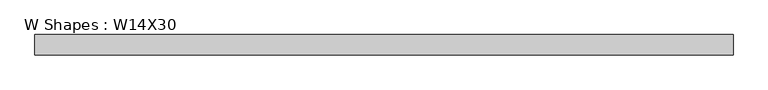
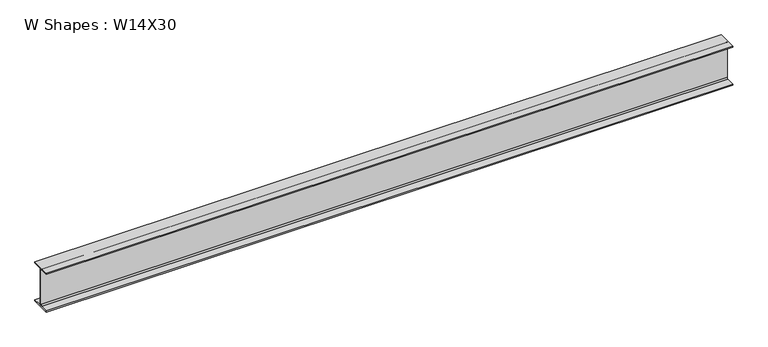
"""IFC4 building model written with IfcOpenShell, lengths in millimetres: beam geometry, W Shapes : W14X30."""

import ifcopenshell
import ifcopenshell.guid

model = None  # the IFC model being written
_history = None  # IfcOwnerHistory: only IFC2X3 demands one
_inside = {}  # id of a spatial element -> (the spatial element, [elements in it])
_under = {}  # id of a project, library or spatial element -> (it, [spatial elements below it])
_declared = {}  # id of a project -> (the project, [libraries it declares])
_typed = {}  # id of a type object -> (the type object, [elements of that type])
_made_of = {}  # id of a material, layer set ... -> (it, [elements and type objects made of it])


def new_model(schema):
    """Start an empty IFC model of exactly this schema.

    Asked for "IFC4X3", IfcOpenShell would pick the latest addendum, in which some entities
    have other attributes; the version numbers below select the first issue.
    IFC2X3 requires an IfcOwnerHistory on every rooted entity: one is made here for all.
    """
    global model, _history
    if schema == "IFC4X3":
        model = ifcopenshell.file(schema_version=(4, 3, 0, 0))
    else:
        model = ifcopenshell.file(schema=schema)
    _inside.clear()
    _under.clear()
    _declared.clear()
    _typed.clear()
    _made_of.clear()
    _history = None
    if model.schema == "IFC2X3":
        org = make("IfcOrganization", Name="unknown")
        user = make(
            "IfcPersonAndOrganization",
            ThePerson=make("IfcPerson", FamilyName="unknown"),
            TheOrganization=org,
        )
        app = make(
            "IfcApplication",
            ApplicationDeveloper=org,
            Version="unknown",
            ApplicationFullName="unknown",
            ApplicationIdentifier="unknown",
        )
        _history = make(
            "IfcOwnerHistory",
            OwningUser=user,
            OwningApplication=app,
            ChangeAction="ADDED",
            CreationDate=0,
        )
    return model


def make(cls, **values):
    """One entity of the class cls with the attributes given. An attribute that is None is left unset."""
    return model.create_entity(
        cls, **{name: value for name, value in values.items() if value is not None}
    )


def rooted(cls, **values):
    """An entity with a GlobalId (a new one), such as an element, a storey or a relation."""
    return make(cls, GlobalId=ifcopenshell.guid.new(), OwnerHistory=_history, **values)


def si_unit(unit_type, name, prefix=None):
    """IfcSIUnit, for example si_unit("LENGTHUNIT", "METRE", prefix="MILLI")."""
    return make("IfcSIUnit", UnitType=unit_type, Prefix=prefix, Name=name)


def assignment(units):
    """IfcUnitAssignment: the units of a project."""
    return None if units is None else make("IfcUnitAssignment", Units=units)


def point(xyz):
    """IfcCartesianPoint."""
    return None if xyz is None else make("IfcCartesianPoint", Coordinates=xyz)


def direction(xyz):
    """IfcDirection."""
    return None if xyz is None else make("IfcDirection", DirectionRatios=xyz)


def frame(location, z_axis=None, x_axis=None):
    """IfcAxis2Placement3D, a coordinate frame: its origin and axes. An axis left out is left unset."""
    return make(
        "IfcAxis2Placement3D",
        Location=point(location),
        Axis=direction(z_axis),
        RefDirection=direction(x_axis),
    )


def frame_2d(location, x_axis=None):
    """IfcAxis2Placement2D, a coordinate frame in the plane: its origin and x axis."""
    return make(
        "IfcAxis2Placement2D", Location=point(location), RefDirection=direction(x_axis)
    )


def origin():
    """The frame at (0, 0, 0) with its axes left unset."""
    return frame((0.0, 0.0, 0.0))


def place(relative_to, where):
    """IfcLocalPlacement: puts the frame where relative to a parent placement (None: the world)."""
    return make(
        "IfcLocalPlacement", PlacementRelTo=relative_to, RelativePlacement=where
    )


def context(
    kind, dimensions, precision=None, world=None, true_north=None, identifier=None
):
    """IfcGeometricRepresentationContext, for example the 3D "Model" context."""
    return make(
        "IfcGeometricRepresentationContext",
        ContextIdentifier=identifier,
        ContextType=kind,
        CoordinateSpaceDimension=dimensions,
        Precision=precision,
        WorldCoordinateSystem=world,
        TrueNorth=true_north,
    )


def project(units=None, contexts=None):
    """IfcProject with its units and contexts."""
    return rooted(
        "IfcProject",
        Name="project",
        RepresentationContexts=contexts,
        UnitsInContext=assignment(units),
    )


def spatial(cls, under=None, at=None, **own):
    """A site, building, storey or space (cls), placed at a placement, below another one or the project."""
    s = rooted(cls, ObjectPlacement=at, **own)
    if under is not None:
        _under.setdefault(under.id(), (under, []))[1].append(s)
    return s


def polyline(points):
    """IfcPolyline through the points."""
    return make("IfcPolyline", Points=[point(p) for p in points])


def circle_curve(where, radius):
    """IfcCircle in the frame where."""
    return make("IfcCircle", Position=where, Radius=radius)


def trimmed(basis, trim1, trim2, sense, master):
    """IfcTrimmedCurve: the piece of a basis curve between two trims."""
    return make(
        "IfcTrimmedCurve",
        BasisCurve=basis,
        Trim1=trim1,
        Trim2=trim2,
        SenseAgreement=sense,
        MasterRepresentation=master,
    )


def segment(curve, same_sense, transition):
    """IfcCompositeCurveSegment."""
    return make(
        "IfcCompositeCurveSegment",
        Transition=transition,
        SameSense=same_sense,
        ParentCurve=curve,
    )


def composite_curve(segments, self_intersect=None):
    """IfcCompositeCurve: segments joined end to end."""
    return make("IfcCompositeCurve", Segments=segments, SelfIntersect=self_intersect)


def outline(outer, holes=None, kind="AREA"):
    """IfcArbitraryClosedProfileDef: a profile drawn as a closed curve; with holes, ...WithVoids."""
    if holes is None:
        return make("IfcArbitraryClosedProfileDef", ProfileType=kind, OuterCurve=outer)
    return make(
        "IfcArbitraryProfileDefWithVoids",
        ProfileType=kind,
        OuterCurve=outer,
        InnerCurves=holes,
    )


def extrude(swept, where, along, depth):
    """IfcExtrudedAreaSolid: the profile swept, set in the frame where, extruded along a direction by depth."""
    return make(
        "IfcExtrudedAreaSolid",
        SweptArea=swept,
        Position=where,
        ExtrudedDirection=direction(along),
        Depth=depth,
    )


def shape(context_of_items, identifier, shape_type, items):
    """IfcShapeRepresentation: the items that make up one representation, for example the "Body"."""
    return make(
        "IfcShapeRepresentation",
        ContextOfItems=context_of_items,
        RepresentationIdentifier=identifier,
        RepresentationType=shape_type,
        Items=items,
    )


def source(mapping_origin, context_of_items, identifier, shape_type, items):
    """IfcRepresentationMap: a shape defined once, which mapped items show again and again."""
    return make(
        "IfcRepresentationMap",
        MappingOrigin=mapping_origin,
        MappedRepresentation=shape(context_of_items, identifier, shape_type, items),
    )


def transform(
    local_origin,
    x_axis=None,
    y_axis=None,
    z_axis=None,
    scale=None,
    scale2=None,
    scale3=None,
    uniform=True,
):
    """IfcCartesianTransformationOperator3D, or its non-uniform kind. x_axis, y_axis, z_axis: its Axis1, 2, 3."""
    if uniform:
        return make(
            "IfcCartesianTransformationOperator3D",
            Axis1=direction(x_axis),
            Axis2=direction(y_axis),
            LocalOrigin=point(local_origin),
            Scale=scale,
            Axis3=direction(z_axis),
        )
    return make(
        "IfcCartesianTransformationOperator3DnonUniform",
        Axis1=direction(x_axis),
        Axis2=direction(y_axis),
        LocalOrigin=point(local_origin),
        Scale=scale,
        Axis3=direction(z_axis),
        Scale2=scale2,
        Scale3=scale3,
    )


def mapped(mapping_source, mapping_target):
    """IfcMappedItem: shows the shape of a source again, moved by a transform."""
    return make(
        "IfcMappedItem", MappingSource=mapping_source, MappingTarget=mapping_target
    )


def made_of(thing, what):
    """Note that an element or type object is made of a material, layer set ...; save() writes the relation."""
    if what is not None:
        _made_of.setdefault(what.id(), (what, []))[1].append(thing)
    return thing


def element(
    cls,
    number,
    at=None,
    inside=None,
    cuts=None,
    type_object=None,
    material=None,
    context=None,
    identifier="Body",
    shape_type=None,
    held_by="IfcProductDefinitionShape",
    body=None,
    shapes=None,
    **own,
):
    """One element of the class cls, such as IfcWall. Its Tag is "e" and its number.

    at: its placement. inside: the storey or other place that contains it. cuts: it is an
    opening in that element (IfcRelVoidsElement). A single representation is given by context,
    identifier, shape_type and body (its items); several are given by shapes. held_by: the class
    of the entity that holds the representations. save() writes the other relations.
    """
    e = rooted(cls, Tag="e%d" % number, ObjectPlacement=at, **own)
    if body is not None:
        shapes = [shape(context, identifier, shape_type, body)]
    if shapes is not None:
        e.Representation = make(held_by, Representations=shapes)
    if inside is not None:
        _inside.setdefault(inside.id(), (inside, []))[1].append(e)
    if cuts is not None:
        rooted(
            "IfcRelVoidsElement", RelatingBuildingElement=cuts, RelatedOpeningElement=e
        )
    if type_object is not None:
        _typed.setdefault(type_object.id(), (type_object, []))[1].append(e)
    return made_of(e, material)


def aggregate(whole, parts):
    """IfcRelAggregates: a whole, such as a stair, and the parts it consists of."""
    return rooted("IfcRelAggregates", RelatingObject=whole, RelatedObjects=parts)


def save(model, path):
    """Write the relations noted so far, then the file.

    IfcRelAggregates (storeys below a building ...), IfcRelContainedInSpatialStructure (elements
    in a storey), IfcRelDefinesByType, IfcRelAssociatesMaterial and IfcRelDeclares: one each for
    every whole, place, type object, material and project.
    """
    for whole, parts in _under.values():
        aggregate(whole, parts)
    for where, things in _inside.values():
        rooted(
            "IfcRelContainedInSpatialStructure",
            RelatedElements=things,
            RelatingStructure=where,
        )
    for kind, things in _typed.values():
        rooted("IfcRelDefinesByType", RelatedObjects=things, RelatingType=kind)
    for what, things in _made_of.values():
        rooted("IfcRelAssociatesMaterial", RelatedObjects=things, RelatingMaterial=what)
    for by, libraries in _declared.values():
        rooted("IfcRelDeclares", RelatingContext=by, RelatedDefinitions=libraries)
    model.write(path)


def w_shapes_w14x30_fa3d23ee(model_context):
    return source(origin(), model_context, "Body", "SweptSolid", [
        extrude(outline(composite_curve([segment(polyline([(85.471, -165.481), (85.471, -175.26), (-85.471, -175.26), (-85.471, -165.481), (-13.589, -165.481)]), True, "CONTINUOUS"), segment(trimmed(circle_curve(frame_2d((-13.589, -155.321)), 10.16), [point((-13.589, -165.481))], [point((-3.429, -155.321))], True, "CARTESIAN"), True, "CONTINUOUS"), segment(polyline([(-3.429, -155.321), (-3.429, 155.321)]), True, "CONTINUOUS"), segment(trimmed(circle_curve(frame_2d((-13.589, 155.321)), 10.16), [point((-3.429, 155.321))], [point((-13.589, 165.481))], True, "CARTESIAN"), True, "CONTINUOUS"), segment(polyline([(-13.589, 165.481), (-85.471, 165.481), (-85.471, 175.26), (85.471, 175.26), (85.471, 165.481), (13.589, 165.481)]), True, "CONTINUOUS"), segment(trimmed(circle_curve(frame_2d((13.589, 155.321)), 10.16), [point((13.589, 165.481))], [point((3.429, 155.321))], True, "CARTESIAN"), True, "CONTINUOUS"), segment(polyline([(3.429, 155.321), (3.429, -155.321)]), True, "CONTINUOUS"), segment(trimmed(circle_curve(frame_2d((13.589, -155.321)), 10.16), [point((3.429, -155.321))], [point((13.589, -165.481))], True, "CARTESIAN"), True, "CONTINUOUS"), segment(polyline([(13.589, -165.481), (85.471, -165.481)]), True, "CONTINUOUS")], self_intersect=False)), frame((-2934.208, 0.0, 0.0), z_axis=(1.0, 0.0, 0.0), x_axis=(0.0, 1.0, 0.0)), (0.0, 0.0, 1.0), 5868.416),
    ])


if __name__ == "__main__":
    model = new_model("IFC4")
    model_context = context("Model", 3, world=origin())
    ifc_project = project(units=[si_unit("LENGTHUNIT", "METRE", prefix="MILLI")], contexts=[model_context])
    site = spatial("IfcSite", under=ifc_project)
    building = spatial("IfcBuilding", under=site)
    placement = place(None, origin())
    w_shapes_w14x30_shape = w_shapes_w14x30_fa3d23ee(model_context)
    element("IfcBeam", 1, ObjectType="W Shapes : W14X30", at=placement, inside=building, context=model_context, shape_type="MappedRepresentation", body=[
        mapped(w_shapes_w14x30_shape, transform((0.0, 0.0, 0.0), x_axis=(1.0, 0.0, 0.0), y_axis=(0.0, 1.0, 0.0), z_axis=(0.0, 0.0, 1.0))),
    ])
    save(model, "model.ifc")
